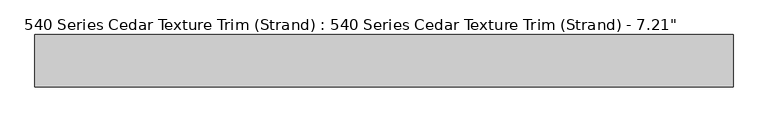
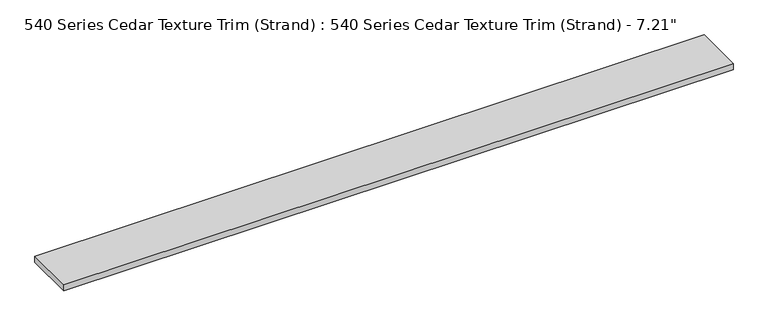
"""IFC4 building model written with IfcOpenShell, lengths in millimetres: proxy geometry."""

from ifc_helpers import new_model, si_unit, origin, origin_with_axes, place, context, project, spatial, polyline, outline, extrude, source, transform, mapped, element, save


def proxy_f03139c5(model_context):
    return source(origin(), model_context, "Body", "SweptSolid", [
        extrude(outline(polyline([(2438.4, 0.0), (0.0, 0.0), (0.0, 183.1578125), (2438.4, 183.1578125), (2438.4, 0.0)])), origin_with_axes(), (0.0, 0.0, 1.0), 23.1179687),
    ])


if __name__ == "__main__":
    model = new_model("IFC4")
    model_context = context("Model", 3, world=origin())
    ifc_project = project(units=[si_unit("LENGTHUNIT", "METRE", prefix="MILLI")], contexts=[model_context])
    site = spatial("IfcSite", under=ifc_project)
    building = spatial("IfcBuilding", under=site)
    placement = place(None, origin())
    proxy_shape = proxy_f03139c5(model_context)
    element("IfcBuildingElementProxy", 1, Name="540 Series Cedar Texture Trim (Strand) : 540 Series Cedar Texture Trim (Strand) - 7.21\"", ObjectType="540 Series Cedar Texture Trim (Strand) : 540 Series Cedar Texture Trim (Strand) - 7.21\"", at=placement, inside=building, context=model_context, shape_type="MappedRepresentation", body=[
        mapped(proxy_shape, transform((0.0, 0.0, 0.0), x_axis=(1.0, 0.0, 0.0), y_axis=(0.0, 1.0, 0.0), z_axis=(0.0, 0.0, 1.0))),
    ])
    save(model, "model.ifc")
